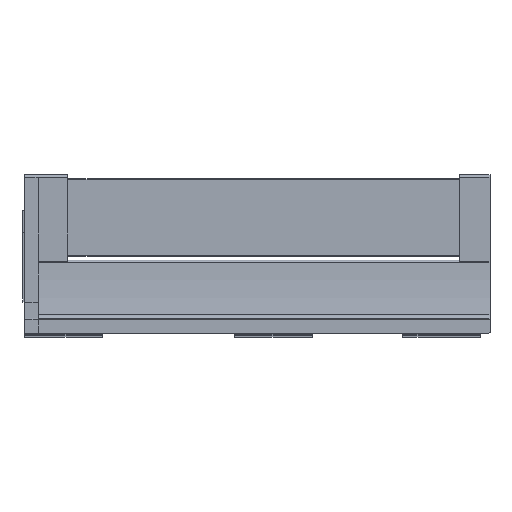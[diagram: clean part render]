
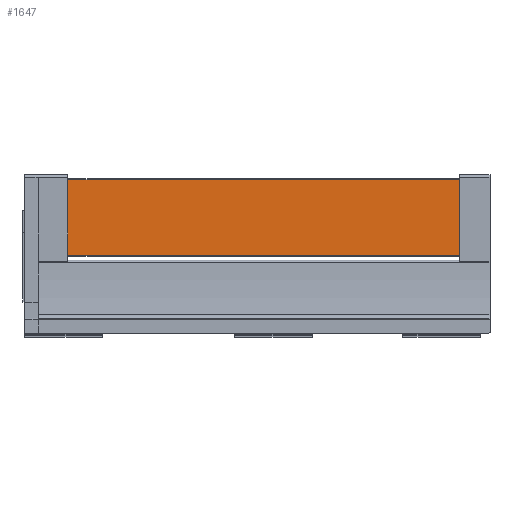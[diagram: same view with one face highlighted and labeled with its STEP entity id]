
A CAD part, left-side view. The second image highlights one B-rep face of the part: STEP entity #1647.
In plain terms, the highlighted planar face has unit normal (-1, 0, 0).
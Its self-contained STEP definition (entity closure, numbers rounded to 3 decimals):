
#377 = VECTOR ( 'NONE', #3080, 1000. ) ;
#378 = LINE ( 'NONE', #3079, #377 ) ;
#449 = LINE ( 'NONE', #2985, #454 ) ;
#454 = VECTOR ( 'NONE', #2993, 1000. ) ;
#795 = VECTOR ( 'NONE', #2602, 1000. ) ;
#796 = LINE ( 'NONE', #2601, #795 ) ;
#845 = VECTOR ( 'NONE', #2533, 1000. ) ;
#846 = LINE ( 'NONE', #2532, #845 ) ;
#1647 = ADVANCED_FACE ( 'NONE', ( #1686 ), #4874, .T. ) ;
#1686 = FACE_OUTER_BOUND ( 'NONE', #3998, .T. ) ;
#2068 = EDGE_CURVE ( 'NONE', #4424, #4361, #846, .T. ) ;
#2104 = EDGE_CURVE ( 'NONE', #4543, #4361, #796, .T. ) ;
#2320 = EDGE_CURVE ( 'NONE', #4336, #4543, #449, .T. ) ;
#2361 = EDGE_CURVE ( 'NONE', #4336, #4424, #378, .T. ) ;
#2532 = CARTESIAN_POINT ( 'NONE',  ( -9.6, 645., 55.298 ) ) ;
#2533 = DIRECTION ( 'NONE',  ( 0., -1., 0. ) ) ;
#2601 = CARTESIAN_POINT ( 'NONE',  ( -9.6, 35.3, 142.798 ) ) ;
#2602 = DIRECTION ( 'NONE',  ( 0., 0., -1. ) ) ;
#2985 = CARTESIAN_POINT ( 'NONE',  ( -9.6, 645., 142.798 ) ) ;
#2993 = DIRECTION ( 'NONE',  ( 0., -1., 0. ) ) ;
#3079 = CARTESIAN_POINT ( 'NONE',  ( -9.6, 489.3, 142.798 ) ) ;
#3080 = DIRECTION ( 'NONE',  ( 0., 0., -1. ) ) ;
#3355 = CARTESIAN_POINT ( 'NONE',  ( -9.6, 489.3, 142.798 ) ) ;
#3380 = CARTESIAN_POINT ( 'NONE',  ( -9.6, 35.3, 55.298 ) ) ;
#3443 = CARTESIAN_POINT ( 'NONE',  ( -9.6, 489.3, 55.298 ) ) ;
#3562 = CARTESIAN_POINT ( 'NONE',  ( -9.6, 35.3, 142.798 ) ) ;
#3623 = AXIS2_PLACEMENT_3D ( 'NONE', #4878, #4884, #4885 ) ;
#3868 = ORIENTED_EDGE ( 'NONE', *, *, #2320, .F. ) ;
#3869 = ORIENTED_EDGE ( 'NONE', *, *, #2104, .F. ) ;
#3870 = ORIENTED_EDGE ( 'NONE', *, *, #2068, .T. ) ;
#3871 = ORIENTED_EDGE ( 'NONE', *, *, #2361, .T. ) ;
#3998 = EDGE_LOOP ( 'NONE', ( #3871, #3870, #3869, #3868 ) ) ;
#4336 = VERTEX_POINT ( 'NONE', #3355 ) ;
#4361 = VERTEX_POINT ( 'NONE', #3380 ) ;
#4424 = VERTEX_POINT ( 'NONE', #3443 ) ;
#4543 = VERTEX_POINT ( 'NONE', #3562 ) ;
#4874 = PLANE ( 'NONE',  #3623 ) ;
#4878 = CARTESIAN_POINT ( 'NONE',  ( -9.6, 645., 142.798 ) ) ;
#4884 = DIRECTION ( 'NONE',  ( -1., 0., 0. ) ) ;
#4885 = DIRECTION ( 'NONE',  ( 0., 0., -1. ) ) ;
